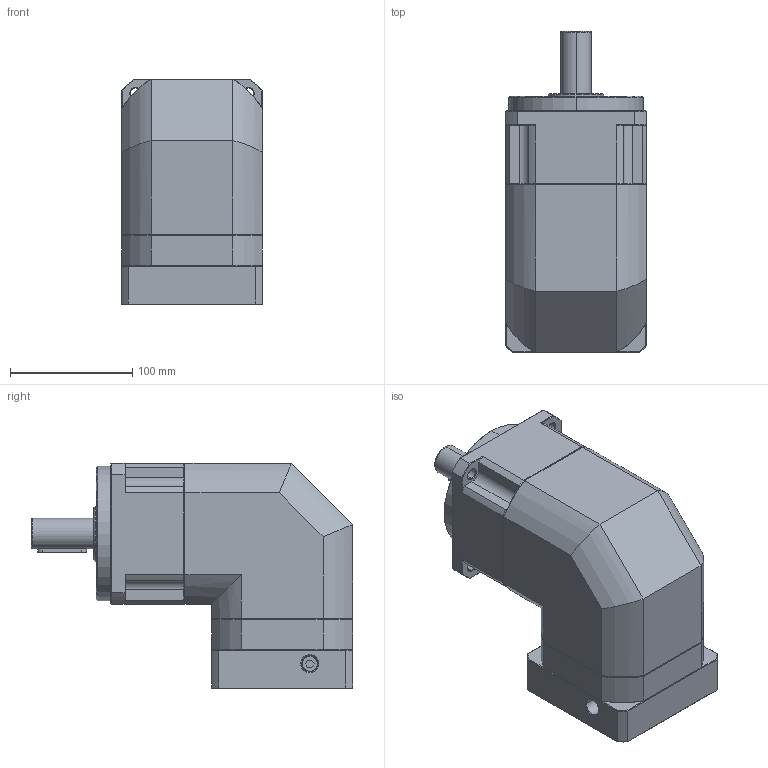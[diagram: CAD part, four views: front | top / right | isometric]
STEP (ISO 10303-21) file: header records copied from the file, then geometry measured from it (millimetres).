
FILE_DESCRIPTION (( 'STEP AP214' ), '1' );
FILE_NAME ('ZPBR115-D25-L1-P1-24-95-130-M8.step', '2024-06-29T07:59:19', ( 'Windows 蚚誧' ), ( 'Organization' ), 'SwSTEP 2.0', 'SolidWorks 2016', '' );
FILE_SCHEMA (( 'AUTOMOTIVE_DESIGN' ));
Length unit declared in the file: millimetre
Products named in the file (1): ZPBR115-D25-L1-P1-24-95-130-M8
Bounding box: 115 x 262.5 x 184.2 mm (x, y, z)
Surface area: 177614 mm2 (no closed solid volume)
Topology: 0 solids, 28 shells, 1835 faces, 4977 edges, 3200 vertices
Faces by surface type: plane 932, bspline 381, cone 270, cylinder 252
Full cylindrical faces by diameter (mm): 10.2 x4
Entity records: 98234 total; most frequent: CARTESIAN_POINT 48951, ORIENTED_EDGE 9756, DIRECTION 7454, EDGE_CURVE 4887, VECTOR 3176, LINE 3176, VERTEX_POINT 3136, AXIS2_PLACEMENT_3D 2139
